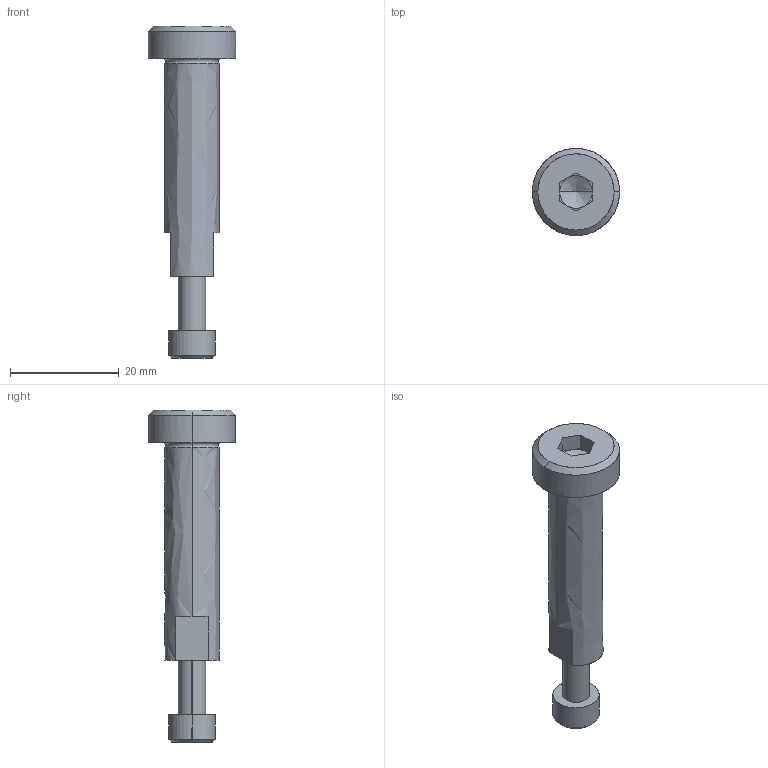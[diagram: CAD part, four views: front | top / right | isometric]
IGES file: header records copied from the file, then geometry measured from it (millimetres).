
Global section: file name: E:\UnigraphicsGraphicData\MISUMI_PRESS-PARTS\IGES\3d_sbt10-40_05087_r00.igs; native system: NX V5.0; preprocessor: UGS NX IGES V5.0; author: MISUMI; date: 20110105.162432; units: millimetre
Bounding box: 16 x 16 x 61 mm (x, y, z)
Surface area: 2917.3 mm2 (no closed solid volume)
Topology: 0 solids, 0 shells, 56 faces, 300 edges, 296 vertices
Faces by surface type: bspline 56
